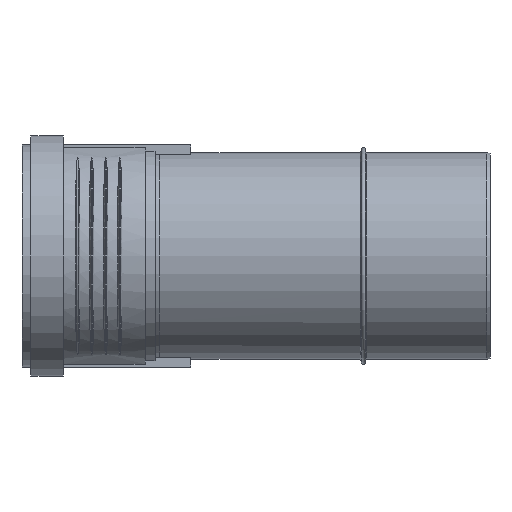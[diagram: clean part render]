
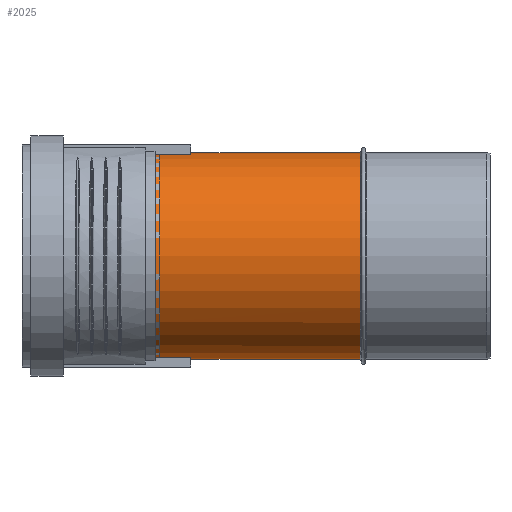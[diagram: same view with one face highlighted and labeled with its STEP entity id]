
A CAD part, left-side view. The second image highlights one B-rep face of the part: STEP entity #2025.
In plain terms, the highlighted cylindrical face has radius 62.6 mm (diameter 125.2 mm), a full revolution.
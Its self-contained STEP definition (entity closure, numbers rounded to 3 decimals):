
#263=CYLINDRICAL_SURFACE($,#2170,62.6);
#429=FACE_BOUND($,#723,.T.);
#492=B_SPLINE_CURVE_WITH_KNOTS($,3,(#3031,#3032,#3033,#3034,#3035,#3036,
#3037,#3038,#3039,#3040,#3041,#3042,#3043,#3044,#3045,#3046,#3047,#3048,
#3049,#3050,#3051,#3052,#3053,#3054,#3055,#3056,#3057,#3058,#3059,#3060,
#3061,#3062,#3063,#3064,#3065,#3066,#3067,#3068,#3069,#3070,#3071,#3072,
#3073,#3074,#3075,#3076,#3077,#3078,#3079,#3080,#3081,#3082,#3083,#3084,
#3085,#3086,#3087,#3088,#3089,#3090,#3091,#3092,#3093),.UNSPECIFIED.,.F.,
 .F.,(4,2,2,2,2,2,2,2,2,2,2,2,2,2,2,2,2,2,2,2,2,2,2,3,2,2,2,2,2,2,4),(11.177,
11.789,13.623,15.196,16.77,18.341,
19.126,19.911,20.882,21.854,22.825,
23.796,24.65,25.504,26.358,27.211,
28.065,28.919,29.773,30.626,31.598,
32.569,33.54,34.512,35.297,36.082,
37.652,39.226,40.8,42.634,43.245),
 .UNSPECIFIED.);
#598=FACE_OUTER_BOUND($,#722,.T.);
#722=EDGE_LOOP($,(#1487));
#723=EDGE_LOOP($,(#1488,#1489));
#891=CIRCLE($,#2157,62.6);
#897=CIRCLE($,#2169,62.6);
#990=VERTEX_POINT($,#2997);
#996=VERTEX_POINT($,#3013);
#997=VERTEX_POINT($,#3020);
#1195=EDGE_CURVE($,#990,#990,#891,.T.);
#1204=EDGE_CURVE($,#997,#996,#897,.T.);
#1205=EDGE_CURVE($,#996,#997,#492,.T.);
#1487=ORIENTED_EDGE($,*,*,#1195,.T.);
#1488=ORIENTED_EDGE($,*,*,#1204,.T.);
#1489=ORIENTED_EDGE($,*,*,#1205,.T.);
#2025=ADVANCED_FACE($,(#598,#429),#263,.T.);
#2157=AXIS2_PLACEMENT_3D($,#2998,#2400,#2401);
#2169=AXIS2_PLACEMENT_3D($,#3029,#2424,#2425);
#2170=AXIS2_PLACEMENT_3D($,#3030,#2426,#2427);
#2400=DIRECTION('center_axis',(0.,1.,0.));
#2401=DIRECTION('ref_axis',(1.,0.,0.));
#2424=DIRECTION('center_axis',(0.,-1.,0.));
#2425=DIRECTION('ref_axis',(1.,0.,0.));
#2426=DIRECTION('center_axis',(0.,1.,0.));
#2427=DIRECTION('ref_axis',(1.,0.,0.));
#2997=CARTESIAN_POINT('',(-62.6,78.5,0.));
#2998=CARTESIAN_POINT('Origin',(0.,78.5,0.));
#3013=CARTESIAN_POINT('',(61.566,203.57,-11.333));
#3020=CARTESIAN_POINT('',(61.566,203.57,11.333));
#3029=CARTESIAN_POINT('Origin',(0.,203.57,0.));
#3030=CARTESIAN_POINT('Origin',(0.,0.,0.));
#3031=CARTESIAN_POINT('Ctrl Pts',(61.566,203.57,-11.333));
#3032=CARTESIAN_POINT('Ctrl Pts',(61.245,202.611,-13.072));
#3033=CARTESIAN_POINT('Ctrl Pts',(60.864,201.464,-14.732));
#3034=CARTESIAN_POINT('Ctrl Pts',(59.164,196.309,-21.031));
#3035=CARTESIAN_POINT('Ctrl Pts',(57.503,191.166,-24.984));
#3036=CARTESIAN_POINT('Ctrl Pts',(54.616,181.807,-30.736));
#3037=CARTESIAN_POINT('Ctrl Pts',(53.13,176.827,-33.202));
#3038=CARTESIAN_POINT('Ctrl Pts',(50.271,166.52,-37.391));
#3039=CARTESIAN_POINT('Ctrl Pts',(48.902,161.194,-39.12));
#3040=CARTESIAN_POINT('Ctrl Pts',(46.65,151.31,-41.78));
#3041=CARTESIAN_POINT('Ctrl Pts',(45.538,145.794,-42.97));
#3042=CARTESIAN_POINT('Ctrl Pts',(44.318,137.398,-44.215));
#3043=CARTESIAN_POINT('Ctrl Pts',(43.987,134.579,-44.543));
#3044=CARTESIAN_POINT('Ctrl Pts',(43.534,129.03,-44.985));
#3045=CARTESIAN_POINT('Ctrl Pts',(43.414,126.301,-45.1));
#3046=CARTESIAN_POINT('Ctrl Pts',(43.414,120.446,-45.1));
#3047=CARTESIAN_POINT('Ctrl Pts',(43.6,117.071,-44.925));
#3048=CARTESIAN_POINT('Ctrl Pts',(44.506,110.427,-44.027));
#3049=CARTESIAN_POINT('Ctrl Pts',(45.231,107.158,-43.301));
#3050=CARTESIAN_POINT('Ctrl Pts',(47.176,101.065,-41.173));
#3051=CARTESIAN_POINT('Ctrl Pts',(48.399,98.226,-39.762));
#3052=CARTESIAN_POINT('Ctrl Pts',(51.055,93.18,-36.29));
#3053=CARTESIAN_POINT('Ctrl Pts',(52.481,90.969,-34.227));
#3054=CARTESIAN_POINT('Ctrl Pts',(55.012,87.445,-29.963));
#3055=CARTESIAN_POINT('Ctrl Pts',(56.2,85.967,-27.705));
#3056=CARTESIAN_POINT('Ctrl Pts',(58.371,83.433,-22.779));
#3057=CARTESIAN_POINT('Ctrl Pts',(59.352,82.375,-20.112));
#3058=CARTESIAN_POINT('Ctrl Pts',(60.956,80.702,-14.542));
#3059=CARTESIAN_POINT('Ctrl Pts',(61.58,80.084,-11.636));
#3060=CARTESIAN_POINT('Ctrl Pts',(62.402,79.278,-5.788));
#3061=CARTESIAN_POINT('Ctrl Pts',(62.6,79.089,-2.846));
#3062=CARTESIAN_POINT('Ctrl Pts',(62.6,79.089,2.846));
#3063=CARTESIAN_POINT('Ctrl Pts',(62.402,79.278,5.788));
#3064=CARTESIAN_POINT('Ctrl Pts',(61.58,80.084,11.636));
#3065=CARTESIAN_POINT('Ctrl Pts',(60.956,80.702,14.542));
#3066=CARTESIAN_POINT('Ctrl Pts',(59.352,82.375,20.112));
#3067=CARTESIAN_POINT('Ctrl Pts',(58.371,83.433,22.779));
#3068=CARTESIAN_POINT('Ctrl Pts',(56.2,85.967,27.705));
#3069=CARTESIAN_POINT('Ctrl Pts',(55.012,87.445,29.963));
#3070=CARTESIAN_POINT('Ctrl Pts',(52.481,90.969,34.227));
#3071=CARTESIAN_POINT('Ctrl Pts',(51.055,93.18,36.29));
#3072=CARTESIAN_POINT('Ctrl Pts',(48.399,98.226,39.762));
#3073=CARTESIAN_POINT('Ctrl Pts',(47.176,101.065,41.173));
#3074=CARTESIAN_POINT('Ctrl Pts',(45.231,107.158,43.301));
#3075=CARTESIAN_POINT('Ctrl Pts',(44.506,110.427,44.027));
#3076=CARTESIAN_POINT('Ctrl Pts',(43.6,117.071,44.925));
#3077=CARTESIAN_POINT('Ctrl Pts',(43.414,120.446,45.1));
#3078=CARTESIAN_POINT('Ctrl Pts',(43.414,123.684,45.1));
#3079=CARTESIAN_POINT('Ctrl Pts',(43.414,126.301,45.1));
#3080=CARTESIAN_POINT('Ctrl Pts',(43.534,129.03,44.985));
#3081=CARTESIAN_POINT('Ctrl Pts',(43.987,134.579,44.543));
#3082=CARTESIAN_POINT('Ctrl Pts',(44.318,137.398,44.215));
#3083=CARTESIAN_POINT('Ctrl Pts',(45.538,145.794,42.97));
#3084=CARTESIAN_POINT('Ctrl Pts',(46.65,151.31,41.78));
#3085=CARTESIAN_POINT('Ctrl Pts',(48.902,161.194,39.12));
#3086=CARTESIAN_POINT('Ctrl Pts',(50.271,166.52,37.391));
#3087=CARTESIAN_POINT('Ctrl Pts',(53.13,176.827,33.202));
#3088=CARTESIAN_POINT('Ctrl Pts',(54.616,181.807,30.736));
#3089=CARTESIAN_POINT('Ctrl Pts',(57.503,191.166,24.984));
#3090=CARTESIAN_POINT('Ctrl Pts',(59.164,196.309,21.031));
#3091=CARTESIAN_POINT('Ctrl Pts',(60.864,201.464,14.732));
#3092=CARTESIAN_POINT('Ctrl Pts',(61.245,202.611,13.072));
#3093=CARTESIAN_POINT('Ctrl Pts',(61.566,203.57,11.333));
